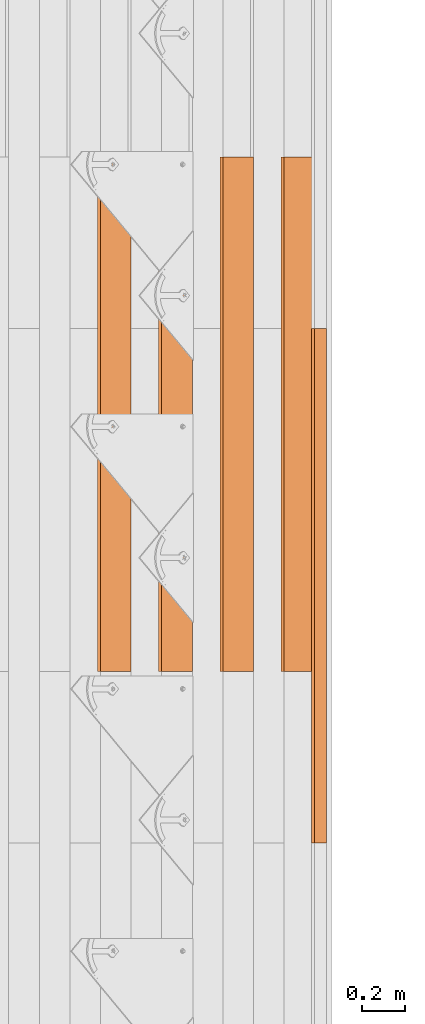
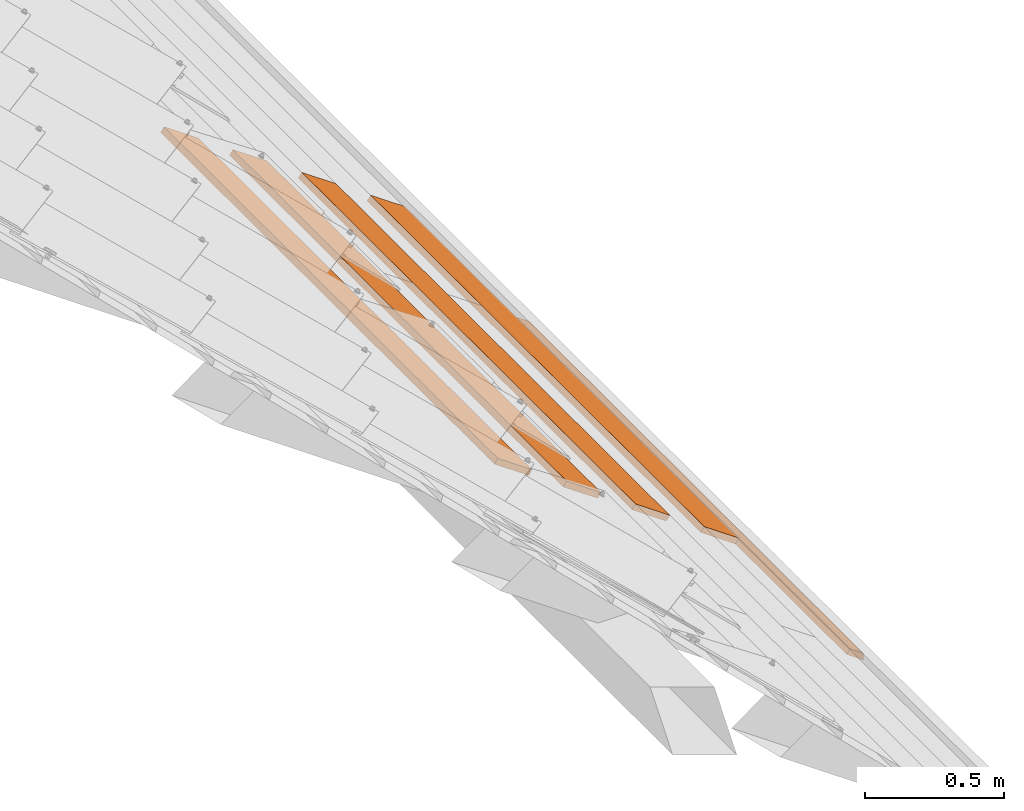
# One storey, part 105 of 151: 5 proxies, 1 element without a shape of its own.
"""IFC2X3 building model written with IfcOpenShell, lengths in millimetres."""

from ifc_helpers import new_model, entity, si_unit, converted_unit, derived_unit, direction, frame, frame_2d, origin, place, context, subcontext, project, spatial, polyline, rectangle, outline, extrude, source, transform, mapped, material, type_object, type_shapes, element, aggregate, save


model = new_model("IFC2X3")

# Units and contexts
model_context = context("Model", 3, precision=0.01, world=origin(), true_north=direction((6.12303176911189e-17, 1.0)))
body_context = subcontext(model_context, "Body", "Model", "MODEL_VIEW")
ifc_project = project(units=[si_unit("LENGTHUNIT", "METRE", prefix="MILLI"), si_unit("AREAUNIT", "SQUARE_METRE"), si_unit("VOLUMEUNIT", "CUBIC_METRE"), converted_unit("PLANEANGLEUNIT", "DEGREE", entity("IfcRatioMeasure", 0.0174532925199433), si_unit("PLANEANGLEUNIT", "RADIAN"), dimensions=[0, 0, 0, 0, 0, 0, 0]), si_unit("MASSUNIT", "GRAM", prefix="KILO"), derived_unit("MASSDENSITYUNIT", [(si_unit("MASSUNIT", "GRAM", prefix="KILO"), 1), (si_unit("LENGTHUNIT", "METRE"), -3)]), si_unit("TIMEUNIT", "SECOND"), si_unit("FREQUENCYUNIT", "HERTZ"), si_unit("THERMODYNAMICTEMPERATUREUNIT", "DEGREE_CELSIUS"), derived_unit("THERMALTRANSMITTANCEUNIT", [(si_unit("MASSUNIT", "GRAM", prefix="KILO"), 1), (si_unit("THERMODYNAMICTEMPERATUREUNIT", "KELVIN"), -1), (si_unit("TIMEUNIT", "SECOND"), -3)]), derived_unit("VOLUMETRICFLOWRATEUNIT", [(si_unit("LENGTHUNIT", "METRE"), 3), (si_unit("TIMEUNIT", "SECOND"), -1)]), si_unit("ELECTRICCURRENTUNIT", "AMPERE"), si_unit("ELECTRICVOLTAGEUNIT", "VOLT"), si_unit("POWERUNIT", "WATT"), si_unit("FORCEUNIT", "NEWTON", prefix="KILO"), si_unit("ILLUMINANCEUNIT", "LUX"), si_unit("LUMINOUSFLUXUNIT", "LUMEN"), si_unit("LUMINOUSINTENSITYUNIT", "CANDELA"), derived_unit("USERDEFINED", [(si_unit("MASSUNIT", "GRAM", prefix="KILO"), -1), (si_unit("LENGTHUNIT", "METRE"), -2), (si_unit("TIMEUNIT", "SECOND"), 3), (si_unit("LUMINOUSFLUXUNIT", "LUMEN"), 1)]), derived_unit("LINEARVELOCITYUNIT", [(si_unit("LENGTHUNIT", "METRE"), 1), (si_unit("TIMEUNIT", "SECOND"), -1)]), si_unit("PRESSUREUNIT", "PASCAL"), derived_unit("USERDEFINED", [(si_unit("LENGTHUNIT", "METRE"), -2), (si_unit("MASSUNIT", "GRAM", prefix="KILO"), 1), (si_unit("TIMEUNIT", "SECOND"), -2)])], contexts=[model_context])

# Site, building, storey
site_placement = place(None, origin())
site = spatial("IfcSite", under=ifc_project, at=site_placement, Name="Default", CompositionType="ELEMENT")
building_placement = place(site_placement, origin())
building = spatial("IfcBuilding", under=site, at=building_placement, CompositionType="ELEMENT")
storey_placement = place(building_placement, origin())
storey = spatial("IfcBuildingStorey", under=building, at=storey_placement, Name="Level 1", CompositionType="ELEMENT", Elevation=0.0)

# Assembly, proxies
assembly_placement = place(storey_placement, origin())
assembly = element("IfcElementAssembly", 1, at=assembly_placement, inside=storey, Name="Structural Framing Assembly:Roof Construction Assembly", ObjectType="Structural Framing Assembly:Roof Construction Assembly", AssemblyPlace="NOTDEFINED", PredefinedType="USERDEFINED")
ifc_material = material(Name="Wood - Generic - Wood For Showcase")
building_element_proxy_type_1 = type_object("IfcBuildingElementProxyType", Name="Structural Framing 15", PredefinedType="NOTDEFINED", material=ifc_material)
shared_shape_1 = source(origin(), body_context, "Body", "SweptSolid", [
    extrude(rectangle(XDim=24.9999999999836, YDim=174.344679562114, at=frame_2d((2.97539770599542e-13, -4.2632564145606e-14), x_axis=(1.0, 0.0))), frame((1285.35601305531, 1525.55080214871, 2760.23940055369), z_axis=(0.0, 1.0, 0.0), x_axis=(0.573576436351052, 0.0, 0.819152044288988)), (0.0, 0.0, 1.0), 2400.0),
])
type_shapes(building_element_proxy_type_1, [shared_shape_1])
proxy_1_placement = place(assembly_placement, frame((2913.78388459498, -2470.0, -2000.0)))
proxy_1 = element("IfcBuildingElementProxy", 2, at=proxy_1_placement, type_object=building_element_proxy_type_1, material=ifc_material, Name="Structural Framing 256:Structural Framing 15", ObjectType="Structural Framing 256:Structural Framing 15", context=body_context, shape_type="MappedRepresentation", body=[
    mapped(shared_shape_1, transform((0.0, 0.0, 0.0), scale=1.0)),
])
building_element_proxy_type_2 = type_object("IfcBuildingElementProxyType", Name="Structural Framing 15", PredefinedType="NOTDEFINED", material=ifc_material)
shared_shape_2 = source(origin(), body_context, "Body", "SweptSolid", [
    extrude(rectangle(XDim=24.9999999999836, YDim=174.344679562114, at=frame_2d((2.97539770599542e-13, -4.2632564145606e-14), x_axis=(1.0, 0.0))), frame((1285.35601305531, 1525.55080214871, 2760.23940055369), z_axis=(0.0, 1.0, 0.0), x_axis=(0.573576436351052, 0.0, 0.819152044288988)), (0.0, 0.0, 1.0), 2400.0),
])
type_shapes(building_element_proxy_type_2, [shared_shape_2])
proxy_2_placement = place(assembly_placement, frame((3199.41348594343, -2470.0, -2200.0)))
proxy_2 = element("IfcBuildingElementProxy", 3, at=proxy_2_placement, type_object=building_element_proxy_type_2, material=ifc_material, Name="Structural Framing 266:Structural Framing 15", ObjectType="Structural Framing 266:Structural Framing 15", context=body_context, shape_type="MappedRepresentation", body=[
    mapped(shared_shape_2, transform((0.0, 0.0, 0.0), scale=1.0)),
])
building_element_proxy_type_3 = type_object("IfcBuildingElementProxyType", Name="Structural Framing 15", PredefinedType="NOTDEFINED", material=ifc_material)
shared_shape_3 = source(origin(), body_context, "Body", "SweptSolid", [
    extrude(rectangle(XDim=24.9999999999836, YDim=174.344679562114, at=frame_2d((2.97539770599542e-13, -4.2632564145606e-14), x_axis=(1.0, 0.0))), frame((1285.35601305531, 1525.55080214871, 2760.23940055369), z_axis=(0.0, 1.0, 0.0), x_axis=(0.573576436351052, 0.0, 0.819152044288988)), (0.0, 0.0, 1.0), 2400.0),
])
type_shapes(building_element_proxy_type_3, [shared_shape_3])
proxy_3_placement = place(assembly_placement, frame((3485.04308729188, -2470.0, -2400.0)))
proxy_3 = element("IfcBuildingElementProxy", 4, at=proxy_3_placement, type_object=building_element_proxy_type_3, material=ifc_material, Name="Structural Framing 276:Structural Framing 15", ObjectType="Structural Framing 276:Structural Framing 15", context=body_context, shape_type="MappedRepresentation", body=[
    mapped(shared_shape_3, transform((0.0, 0.0, 0.0), scale=1.0)),
])
building_element_proxy_type_4 = type_object("IfcBuildingElementProxyType", Name="Structural Framing 15", PredefinedType="NOTDEFINED", material=ifc_material)
shared_shape_4 = source(origin(), body_context, "Body", "SweptSolid", [
    extrude(rectangle(XDim=24.9999999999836, YDim=174.344679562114, at=frame_2d((2.97539770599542e-13, -4.2632564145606e-14), x_axis=(1.0, 0.0))), frame((1285.35601305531, 1525.55080214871, 2760.23940055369), z_axis=(0.0, 1.0, 0.0), x_axis=(0.573576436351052, 0.0, 0.819152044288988)), (0.0, 0.0, 1.0), 2400.0),
])
type_shapes(building_element_proxy_type_4, [shared_shape_4])
proxy_4_placement = place(assembly_placement, frame((3770.67268864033, -2470.0, -2600.0)))
proxy_4 = element("IfcBuildingElementProxy", 5, at=proxy_4_placement, type_object=building_element_proxy_type_4, material=ifc_material, Name="Structural Framing 286:Structural Framing 15", ObjectType="Structural Framing 286:Structural Framing 15", context=body_context, shape_type="MappedRepresentation", body=[
    mapped(shared_shape_4, transform((0.0, 0.0, 0.0), scale=1.0)),
])
building_element_proxy_type_5 = type_object("IfcBuildingElementProxyType", Name="Structural Framing 15", PredefinedType="NOTDEFINED", material=ifc_material)
shared_shape_5 = source(origin(), body_context, "Body", "SweptSolid", [
    extrude(outline(polyline([(-12.4999999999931, -38.2231230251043), (12.4999999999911, -38.2231230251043), (12.4999999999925, 29.4705287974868), (-12.499999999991, 46.975717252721), (-12.4999999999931, -38.2231230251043)])), frame((5101.25878028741, -6581.94919785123, 88.3155178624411), z_axis=(0.0, 1.0, 0.0), x_axis=(0.573576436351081, 0.0, 0.819152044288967)), (0.0, 0.0, 1.0), 2400.0),
])
type_shapes(building_element_proxy_type_5, [shared_shape_5])
proxy_5_placement = place(assembly_placement, frame((57.4878711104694, 4837.49999999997, 0.0)))
proxy_5 = element("IfcBuildingElementProxy", 6, at=proxy_5_placement, type_object=building_element_proxy_type_5, material=ifc_material, Name="Structural Framing 291:Structural Framing 15", ObjectType="Structural Framing 291:Structural Framing 15", context=body_context, shape_type="MappedRepresentation", body=[
    mapped(shared_shape_5, transform((0.0, 0.0, 0.0), scale=1.0)),
])
aggregate(assembly, [proxy_1, proxy_2, proxy_3, proxy_4, proxy_5])

save(model, "model.ifc")
